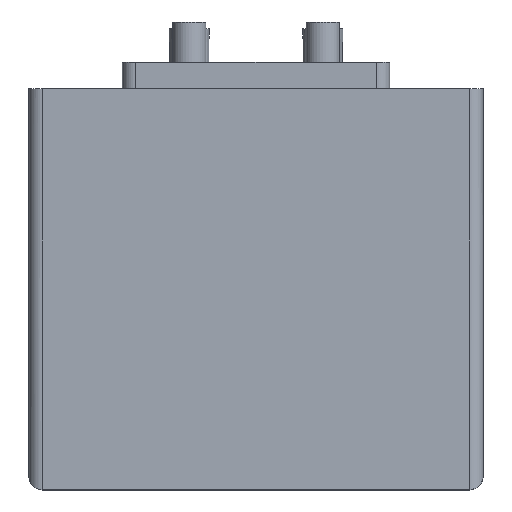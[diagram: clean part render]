
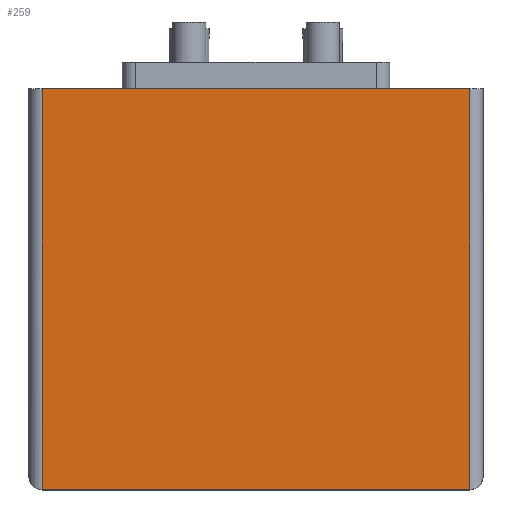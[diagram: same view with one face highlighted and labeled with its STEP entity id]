
A CAD part, top view. The second image highlights one B-rep face of the part: STEP entity #259.
In plain terms, the highlighted planar face has unit normal (0, 0, 1).
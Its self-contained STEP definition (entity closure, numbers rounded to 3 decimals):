
#259=ADVANCED_FACE('',(#595),#596,.F.);
#595=FACE_OUTER_BOUND('',#1021,.T.);
#596=PLANE('',#1022);
#1021=EDGE_LOOP('',(#1695,#1696,#1697,#1698));
#1022=AXIS2_PLACEMENT_3D('',#1699,#1700,#1701);
#1695=ORIENTED_EDGE('',*,*,#2162,.F.);
#1696=ORIENTED_EDGE('',*,*,#2154,.T.);
#1697=ORIENTED_EDGE('',*,*,#2278,.F.);
#1698=ORIENTED_EDGE('',*,*,#2281,.T.);
#1699=CARTESIAN_POINT('',(17.0,-32.0,12.5));
#1700=DIRECTION('',(0.0,0.0,-1.0));
#1701=DIRECTION('',(0.0,-1.0,0.0));
#2154=EDGE_CURVE('',#2466,#2500,#2502,.T.);
#2162=EDGE_CURVE('',#2466,#2418,#2514,.T.);
#2278=EDGE_CURVE('',#2682,#2500,#2684,.T.);
#2281=EDGE_CURVE('',#2682,#2418,#2687,.T.);
#2418=VERTEX_POINT('',#2877);
#2466=VERTEX_POINT('',#2935);
#2500=VERTEX_POINT('',#2983);
#2502=LINE('',#2985,#2986);
#2514=LINE('',#2998,#2999);
#2682=VERTEX_POINT('',#3217);
#2684=LINE('',#3219,#3220);
#2687=LINE('',#3223,#3224);
#2877=CARTESIAN_POINT('',(-16.0,-32.0,12.5));
#2935=CARTESIAN_POINT('',(16.0,-32.0,12.5));
#2983=CARTESIAN_POINT('',(16.0,-2.,12.5));
#2985=CARTESIAN_POINT('',(16.0,-32.0,12.5));
#2986=VECTOR('',#3599,1.0);
#2998=CARTESIAN_POINT('',(17.0,-32.0,12.5));
#2999=VECTOR('',#3612,1.0);
#3217=CARTESIAN_POINT('',(-16.0,-2.,12.5));
#3219=CARTESIAN_POINT('',(-17.0,-2.,12.5));
#3220=VECTOR('',#3747,1.0);
#3223=CARTESIAN_POINT('',(-16.0,-32.0,12.5));
#3224=VECTOR('',#3748,1.0);
#3599=DIRECTION('',(0.0,1.0,0.0));
#3612=DIRECTION('',(-1.0,0.0,0.0));
#3747=DIRECTION('',(1.0,0.0,0.0));
#3748=DIRECTION('',(0.0,-1.0,0.0));
